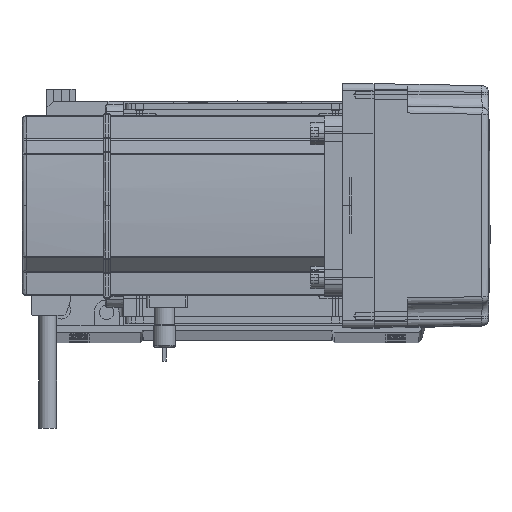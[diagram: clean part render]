
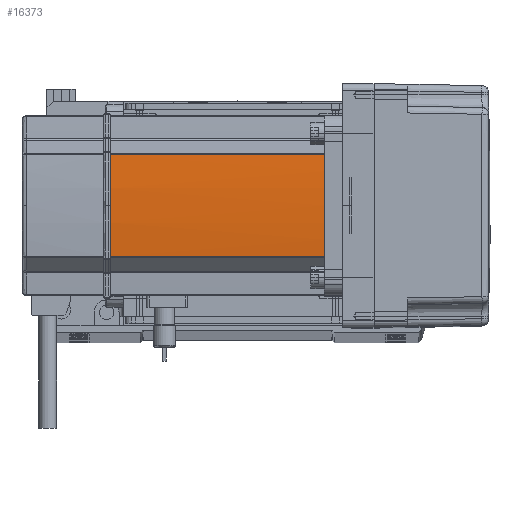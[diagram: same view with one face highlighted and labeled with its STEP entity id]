
A CAD part, top view. The second image highlights one B-rep face of the part: STEP entity #16373.
In plain terms, the highlighted cylindrical face has radius 270 mm (diameter 540 mm), a partial arc.
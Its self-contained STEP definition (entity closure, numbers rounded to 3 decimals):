
#3406 = DIRECTION ( 'NONE',  ( 0., 0., 1. ) ) ;
#5263 = EDGE_CURVE ( 'NONE', #35747, #30093, #6253, .T. ) ;
#6253 = CIRCLE ( 'NONE', #45890, 270. ) ;
#9606 = CARTESIAN_POINT ( 'NONE',  ( -39.042, 22.724, 39. ) ) ;
#10016 = AXIS2_PLACEMENT_3D ( 'NONE', #26507, #61445, #56250 ) ;
#10531 = DIRECTION ( 'NONE',  ( 0., 0., -1. ) ) ;
#10873 = AXIS2_PLACEMENT_3D ( 'NONE', #29253, #64407, #19691 ) ;
#12209 = VERTEX_POINT ( 'NONE', #9606 ) ;
#12750 = CARTESIAN_POINT ( 'NONE',  ( -39.042, -22.724, 39. ) ) ;
#12847 = CIRCLE ( 'NONE', #41214, 270. ) ;
#14245 = ORIENTED_EDGE ( 'NONE', *, *, #36065, .T. ) ;
#16373 = ADVANCED_FACE ( 'NONE', ( #25361 ), #33154, .T. ) ;
#19691 = DIRECTION ( 'NONE',  ( 1., 0., 0. ) ) ;
#24204 = CARTESIAN_POINT ( 'NONE',  ( -39.042, 22.724, 134. ) ) ;
#24260 = EDGE_CURVE ( 'NONE', #43439, #35747, #12847, .T. ) ;
#25361 = FACE_OUTER_BOUND ( 'NONE', #43222, .T. ) ;
#26507 = CARTESIAN_POINT ( 'NONE',  ( 230., 0., 39. ) ) ;
#26635 = ORIENTED_EDGE ( 'NONE', *, *, #47410, .F. ) ;
#28327 = CARTESIAN_POINT ( 'NONE',  ( -39.042, -22.724, 0. ) ) ;
#28463 = VERTEX_POINT ( 'NONE', #12750 ) ;
#29253 = CARTESIAN_POINT ( 'NONE',  ( 230., 0., 0. ) ) ;
#30093 = VERTEX_POINT ( 'NONE', #24204 ) ;
#31228 = DIRECTION ( 'NONE',  ( 0., 0., -1. ) ) ;
#32744 = CARTESIAN_POINT ( 'NONE',  ( -39.042, 22.724, 0. ) ) ;
#33154 = CYLINDRICAL_SURFACE ( 'NONE', #10873, 270. ) ;
#35747 = VERTEX_POINT ( 'NONE', #57732 ) ;
#36065 = EDGE_CURVE ( 'NONE', #28463, #43439, #37999, .T. ) ;
#37999 = LINE ( 'NONE', #28327, #64399 ) ;
#38455 = CARTESIAN_POINT ( 'NONE',  ( -39.042, -22.724, 134. ) ) ;
#41118 = CARTESIAN_POINT ( 'NONE',  ( 230., 0., 134. ) ) ;
#41214 = AXIS2_PLACEMENT_3D ( 'NONE', #61373, #31228, #46425 ) ;
#42230 = ORIENTED_EDGE ( 'NONE', *, *, #24260, .T. ) ;
#42730 = DIRECTION ( 'NONE',  ( 0., 0., -1. ) ) ;
#43222 = EDGE_LOOP ( 'NONE', ( #42230, #58988, #43978, #26635, #14245 ) ) ;
#43439 = VERTEX_POINT ( 'NONE', #38455 ) ;
#43978 = ORIENTED_EDGE ( 'NONE', *, *, #47930, .T. ) ;
#45890 = AXIS2_PLACEMENT_3D ( 'NONE', #41118, #10531, #50656 ) ;
#46425 = DIRECTION ( 'NONE',  ( 1., 0., 0. ) ) ;
#47410 = EDGE_CURVE ( 'NONE', #28463, #12209, #55145, .T. ) ;
#47930 = EDGE_CURVE ( 'NONE', #30093, #12209, #62933, .T. ) ;
#50656 = DIRECTION ( 'NONE',  ( 1., 0., 0. ) ) ;
#55145 = CIRCLE ( 'NONE', #10016, 270. ) ;
#56250 = DIRECTION ( 'NONE',  ( 1., 0., 0. ) ) ;
#57457 = VECTOR ( 'NONE', #42730, 1000. ) ;
#57732 = CARTESIAN_POINT ( 'NONE',  ( -40., 0., 134. ) ) ;
#58988 = ORIENTED_EDGE ( 'NONE', *, *, #5263, .T. ) ;
#61373 = CARTESIAN_POINT ( 'NONE',  ( 230., 0., 134. ) ) ;
#61445 = DIRECTION ( 'NONE',  ( 0., 0., -1. ) ) ;
#62933 = LINE ( 'NONE', #32744, #57457 ) ;
#64399 = VECTOR ( 'NONE', #3406, 1000. ) ;
#64407 = DIRECTION ( 'NONE',  ( 0., 0., 1. ) ) ;
